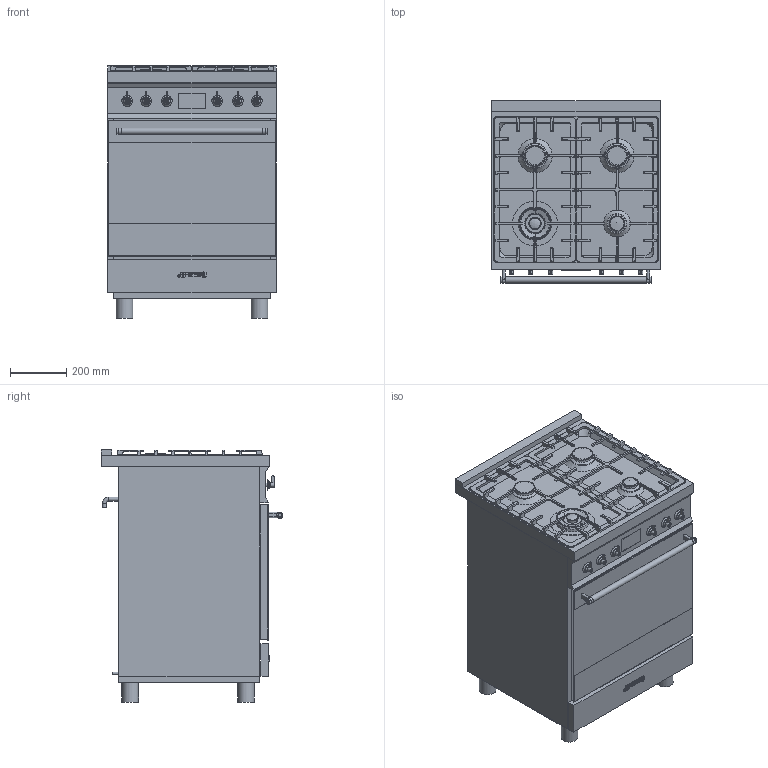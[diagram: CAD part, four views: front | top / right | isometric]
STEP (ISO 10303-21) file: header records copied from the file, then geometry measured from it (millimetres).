
FILE_DESCRIPTION(/* description */ ('Unknown'),/* implementation_level */ '2;1');
FILE_NAME(/* name */ 'C6GMX2',/* time_stamp */ '2025-04-28T15:47:18+02:00',/* author */ ('Unknown'),/* organization */ ('Unknown'),/* preprocessor_version */ 'ST-DEVELOPER v16.7',/* originating_system */ 'DEX',/* authorisation */ $);
FILE_SCHEMA (('AUTOMOTIVE_DESIGN {1 0 10303 214 3 1 1}'));
Length unit declared in the file: millimetre
Products named in the file (1): C6GMX2
Bounding box: 598 x 645.16 x 894.71 mm (x, y, z)
Volume: 248639580.1 mm3; surface area: 6980123.1 mm2
Topology: 62 solids, 63 shells, 965 faces, 2480 edges, 1661 vertices
Faces by surface type: plane 529, cylinder 294, bspline 115, cone 19, sphere 6, torus 2
Full cylindrical faces by diameter (mm): 8 x6, 8.5 x6, 8.828 x5, 8.863 x1, 9 x1, 10 x1, 13 x2, 13.5 x2, 14 x2, 14.995 x6, 22 x3, 55 x1, 59 x4, 65.5 x1, 75 x2, 85.5 x2, 113 x1, 159.13 x1
Entity records: 39805 total; most frequent: CARTESIAN_POINT 16657, ORIENTED_EDGE 4768, DIRECTION 4373, EDGE_CURVE 2384, VERTEX_POINT 1635, AXIS2_PLACEMENT_3D 1504, LINE 1365, VECTOR 1365
